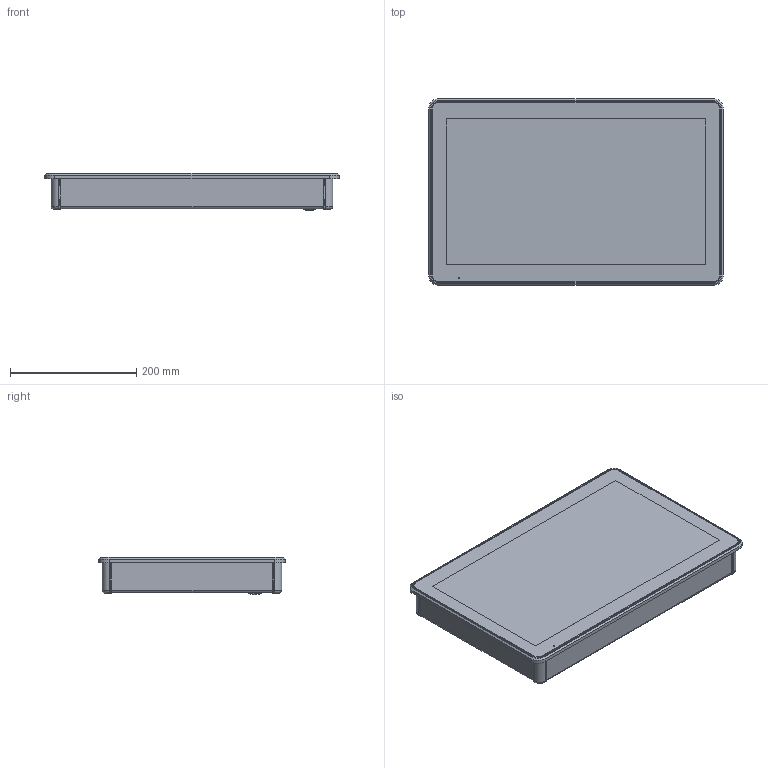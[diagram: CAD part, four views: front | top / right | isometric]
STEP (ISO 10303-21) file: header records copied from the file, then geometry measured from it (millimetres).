
FILE_DESCRIPTION(/* description */ (''),/* implementation_level */ '2;1');
FILE_NAME(/* name */ 'C:\SAPInventorWork\778-43990-00_EXTERN.stp',/* time_stamp */ '2024-06-19T12:03:50+02:00',/* author */ ('Aiple'),/* organization */ (''),/* preprocessor_version */ 'ST-DEVELOPER v18.1',/* originating_system */ 'Autodesk Inventor 2021',/* authorisation */ '');
FILE_SCHEMA (('AUTOMOTIVE_DESIGN { 1 0 10303 214 3 1 1 }'));
Products named in the file (1): 778-43990-00
Bounding box: 466.5 x 295.6 x 58.71 mm (x, y, z)
Volume: 6327772.4 mm3; surface area: 387147.8 mm2
Topology: 1 solids, 58 shells, 3330 faces, 8736 edges, 5757 vertices
Faces by surface type: plane 1826, cylinder 762, bspline 490, cone 241, torus 7, sphere 4
Full cylindrical faces by diameter (mm): 0.457 x1, 2.459 x8, 2.5 x2, 2.8 x2, 2.9 x2, 2.91 x2, 3 x10, 3.242 x6, 3.5 x4, 3.91 x1, 4 x3, 4.22 x8, 4.3 x8, 4.5 x8, 4.7 x2, 4.767 x6, 4.917 x4, 5 x3, 5.2 x1, 5.3 x2, 5.38 x6, 5.4 x6, 5.54 x8, 5.7 x8, 6 x7, 8.107 x4, 8.4 x8, 8.72 x4, 8.8 x4, 20 x1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
Entity records: 114075 total; most frequent: CARTESIAN_POINT 31862, ORIENTED_EDGE 17468, DIRECTION 14129, EDGE_CURVE 8734, VERTEX_POINT 5757, LINE 5607, VECTOR 5607, AXIS2_PLACEMENT_3D 4261
